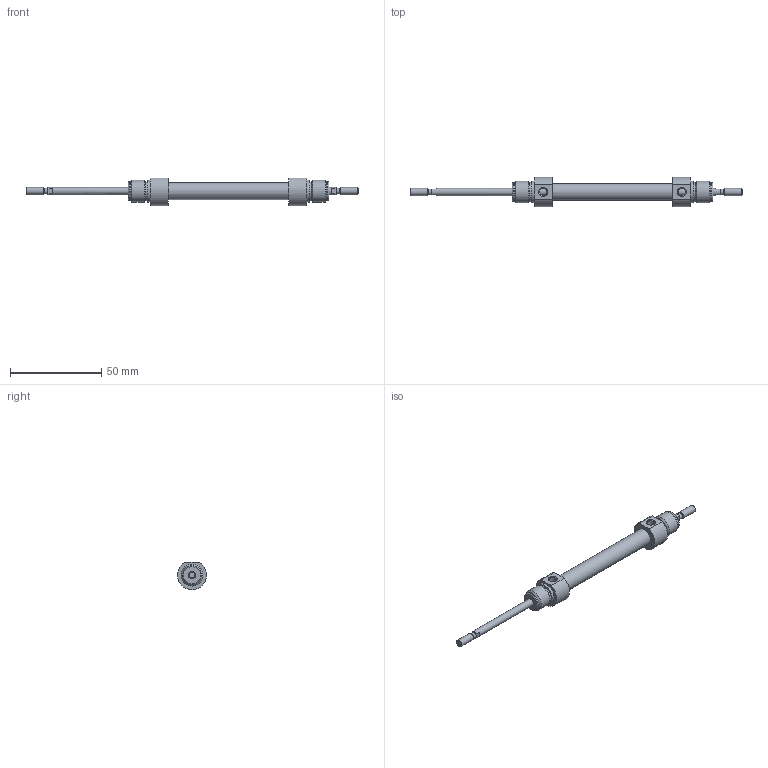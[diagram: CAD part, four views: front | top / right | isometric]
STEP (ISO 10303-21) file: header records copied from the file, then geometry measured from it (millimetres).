
FILE_DESCRIPTION( ( 'STEP AP203' ), '1' );
FILE_NAME( '//expscmdclustefs.cadenas.external/client_exchange/iodir/jobs/output/wkb68261323_no0/STEP/M101-08-0040--__0__2_03.stp', ' ', ( ' ' ), ( ' ' ), 'PSStep 15.0.47', 'PARTsolutions', ' ' );
FILE_SCHEMA( ( 'CONFIG_CONTROL_DESIGN' ) );
Length unit declared in the file: millimetre
Products named in the file (3): M101-08-0040-- [0]; HI_M101-08-0040---[0]-z; HI_M101-08-0040---[0]-k
Assembly tree (2 placements, depth 2):
  M101-08-0040-- [0]
    HI_M101-08-0040---[0]-z
    HI_M101-08-0040---[0]-k
Bounding box: 182 x 15.98 x 14.97 mm (x, y, z)
Volume: 10163.5 mm3; surface area: 8981.9 mm2
Topology: 2 solids, 2 shells, 71 faces, 145 edges, 88 vertices
Faces by surface type: plane 32, cylinder 23, cone 14, torus 2
Full cylindrical faces by diameter (mm): 3.141 x2, 4 x6, 4.134 x2, 8 x2, 9.3 x1, 10.466 x4, 12 x4
Entity records: 1838 total; most frequent: CARTESIAN_POINT 358, DIRECTION 312, ORIENTED_EDGE 212, AXIS2_PLACEMENT_3D 140, EDGE_LOOP 120, EDGE_CURVE 106, FACE_OUTER_BOUND 94, VERTEX_POINT 82
